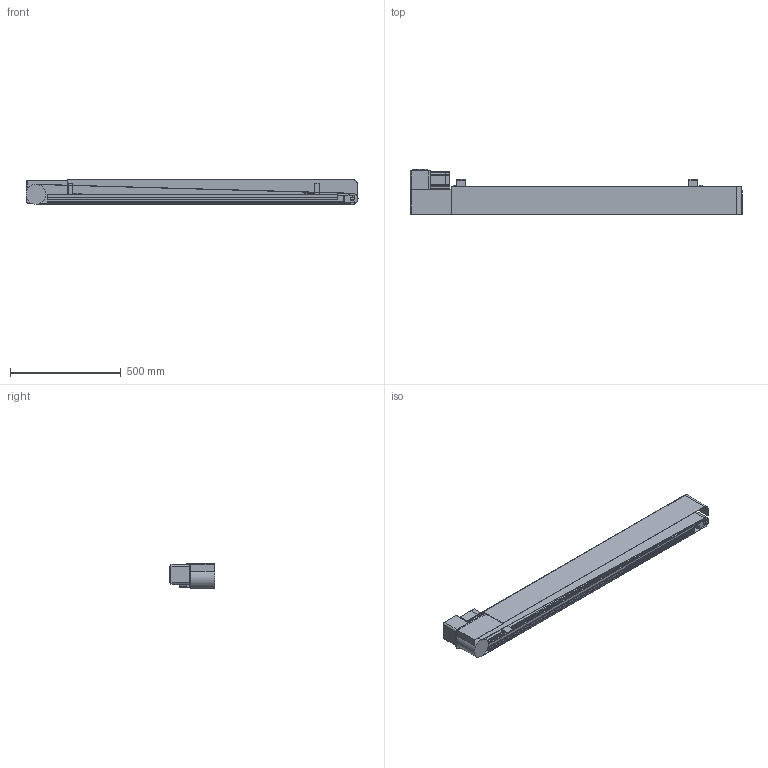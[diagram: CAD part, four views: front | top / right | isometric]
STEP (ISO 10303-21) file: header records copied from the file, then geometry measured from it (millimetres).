
FILE_DESCRIPTION (( 'STEP AP214' ), '1' );
FILE_NAME ('SB3-150-L.STEP', '2022-06-12T23:54:16', ( '' ), ( '' ), 'SwSTEP 2.0', 'SolidWorks 2017', '' );
FILE_SCHEMA (( 'AUTOMOTIVE_DESIGN' ));
Length unit declared in the file: millimetre
Products named in the file (4): SWD-RNYM004-07-5乣120乛J2NXTX_B; SWD-SB-S-SB3サイドベヤユニット(L); SB3-150-L; SWD-SB-S-SB3傾儖儈僼儗乕儉
Assembly tree (3 placements, depth 2):
  SB3-150-L
    SWD-SB-S-SB3サイドベヤユニット(L)
    SWD-SB-S-SB3傾儖儈僼儗乕儉
    SWD-RNYM004-07-5乣120乛J2NXTX_B
Bounding box: 1501.45 x 206 x 111.9 mm (x, y, z)
Volume: 4384383.9 mm3; surface area: 2532143.2 mm2
Topology: 19 solids, 19 shells, 538 faces, 1397 edges, 921 vertices
Faces by surface type: plane 371, cylinder 142, cone 12, bspline 9, torus 4
Entity records: 18375 total; most frequent: CARTESIAN_POINT 3048, ORIENTED_EDGE 2794, DIRECTION 2784, EDGE_CURVE 1397, VECTOR 1058, LINE 1058, VERTEX_POINT 921, AXIS2_PLACEMENT_3D 863
